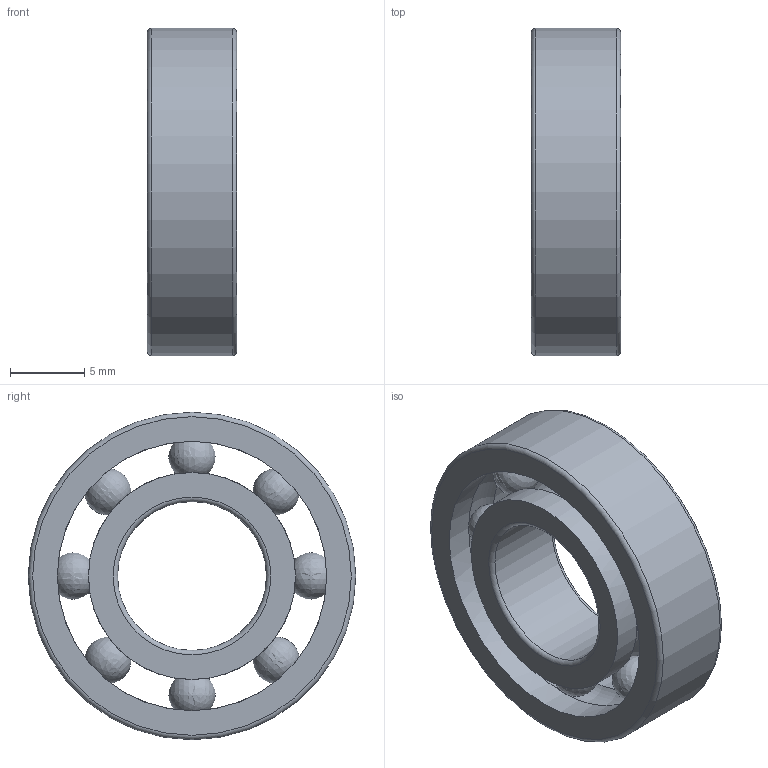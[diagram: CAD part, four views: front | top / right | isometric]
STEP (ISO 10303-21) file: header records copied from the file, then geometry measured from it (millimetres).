
FILE_DESCRIPTION(/* description */ ('깊은 그루브 볼 베어링'),/* implementation_level */ '2;1');
FILE_NAME(/* name */ '',/* time_stamp */ '2026-04-27T11:33:06+09:00',/* author */ ('jhkim'),/* organization */ (''),/* preprocessor_version */ 'ST-DEVELOPER v20.1',/* originating_system */ 'Autodesk Inventor 2027',/* authorisation */ '');
FILE_SCHEMA (('AUTOMOTIVE_DESIGN { 1 0 10303 214 3 1 1 }'));
Length unit declared in the file: millimetre
Products named in the file (1): 깊은 홈 볼 베어링 
6900
Bounding box: 6 x 22 x 22 mm (x, y, z)
Volume: 1219.9 mm3; surface area: 1848.1 mm2
Topology: 10 solids, 10 shells, 38 faces, 98 edges, 64 vertices
Faces by surface type: torus 20, sphere 8, cylinder 6, plane 4
Full cylindrical faces by diameter (mm): 10 x1, 13.912 x2, 18.088 x2, 22 x1
Entity records: 1392 total; most frequent: DIRECTION 268, CARTESIAN_POINT 233, ORIENTED_EDGE 196, AXIS2_PLACEMENT_3D 131, EDGE_CURVE 98, VERTEX_POINT 96, CIRCLE 92, EDGE_LOOP 58
